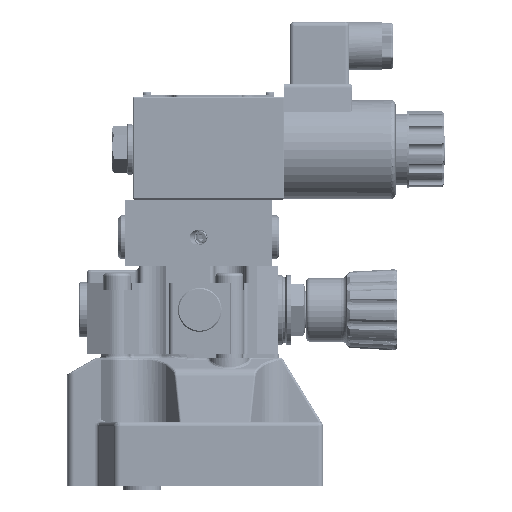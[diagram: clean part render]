
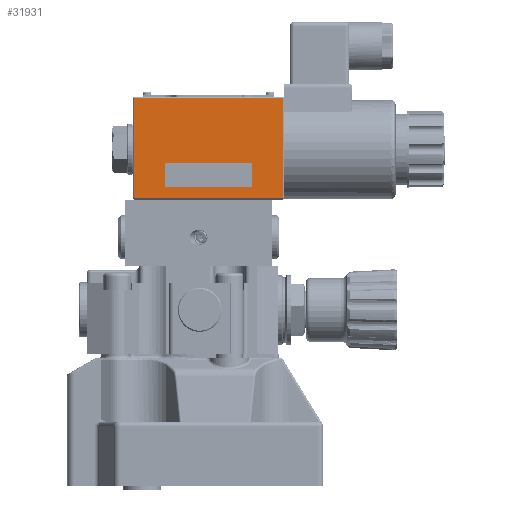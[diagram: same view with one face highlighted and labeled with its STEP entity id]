
A CAD part, front view. The second image highlights one B-rep face of the part: STEP entity #31931.
In plain terms, the highlighted planar face has unit normal (0, -1, 0).
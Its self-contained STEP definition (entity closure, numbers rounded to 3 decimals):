
#1610=LINE('',#228121,#3698);
#1611=LINE('',#228124,#3699);
#1612=LINE('',#228126,#3700);
#1613=LINE('',#228128,#3701);
#1614=LINE('',#228129,#3702);
#1615=LINE('',#228132,#3703);
#1616=LINE('',#228134,#3704);
#1617=LINE('',#228136,#3705);
#3698=VECTOR('',#49496,1.);
#3699=VECTOR('',#49497,1.);
#3700=VECTOR('',#49498,1.);
#3701=VECTOR('',#49499,1.);
#3702=VECTOR('',#49500,1.);
#3703=VECTOR('',#49501,1.);
#3704=VECTOR('',#49502,1.);
#3705=VECTOR('',#49503,1.);
#7347=PLANE('',#41073);
#11766=EDGE_LOOP('',(#19762,#19763,#19764,#19765));
#11767=EDGE_LOOP('',(#19766,#19767,#19768,#19769));
#19762=ORIENTED_EDGE('',*,*,#26257,.T.);
#19763=ORIENTED_EDGE('',*,*,#26258,.T.);
#19764=ORIENTED_EDGE('',*,*,#26259,.T.);
#19765=ORIENTED_EDGE('',*,*,#26260,.T.);
#19766=ORIENTED_EDGE('',*,*,#26261,.F.);
#19767=ORIENTED_EDGE('',*,*,#26262,.F.);
#19768=ORIENTED_EDGE('',*,*,#26263,.F.);
#19769=ORIENTED_EDGE('',*,*,#26264,.F.);
#26257=EDGE_CURVE('',#37220,#37221,#1610,.T.);
#26258=EDGE_CURVE('',#37221,#37222,#1611,.T.);
#26259=EDGE_CURVE('',#37222,#37223,#1612,.T.);
#26260=EDGE_CURVE('',#37223,#37220,#1613,.T.);
#26261=EDGE_CURVE('',#37224,#37225,#1614,.T.);
#26262=EDGE_CURVE('',#37226,#37224,#1615,.T.);
#26263=EDGE_CURVE('',#37227,#37226,#1616,.T.);
#26264=EDGE_CURVE('',#37225,#37227,#1617,.T.);
#31931=ADVANCED_FACE('',(#34141,#34142),#7347,.T.);
#34141=FACE_BOUND('',#11766,.T.);
#34142=FACE_BOUND('',#11767,.T.);
#37220=VERTEX_POINT('',#228122);
#37221=VERTEX_POINT('',#228123);
#37222=VERTEX_POINT('',#228125);
#37223=VERTEX_POINT('',#228127);
#37224=VERTEX_POINT('',#228130);
#37225=VERTEX_POINT('',#228131);
#37226=VERTEX_POINT('',#228133);
#37227=VERTEX_POINT('',#228135);
#41073=AXIS2_PLACEMENT_3D('',#228137,#49504,#49505);
#49496=DIRECTION('',(0.,0.,-1.));
#49497=DIRECTION('',(1.,0.,0.));
#49498=DIRECTION('',(0.,0.,1.));
#49499=DIRECTION('',(-1.,0.,0.));
#49500=DIRECTION('',(-1.,0.,0.));
#49501=DIRECTION('',(0.,0.,1.));
#49502=DIRECTION('',(1.,0.,0.));
#49503=DIRECTION('',(0.,0.,-1.));
#49504=DIRECTION('',(0.,-1.,0.));
#49505=DIRECTION('',(0.,0.,-1.));
#228121=CARTESIAN_POINT('',(-724.56,-79.432,160.));
#228122=CARTESIAN_POINT('',(-724.56,-79.432,206.3));
#228123=CARTESIAN_POINT('',(-724.56,-79.432,160.7));
#228124=CARTESIAN_POINT('',(-690.76,-79.432,160.7));
#228125=CARTESIAN_POINT('',(-656.96,-79.432,160.7));
#228126=CARTESIAN_POINT('',(-656.96,-79.432,160.));
#228127=CARTESIAN_POINT('',(-656.96,-79.432,206.3));
#228128=CARTESIAN_POINT('',(-690.76,-79.432,206.3));
#228129=CARTESIAN_POINT('',(-670.76,-79.432,177.));
#228130=CARTESIAN_POINT('',(-670.76,-79.432,177.));
#228131=CARTESIAN_POINT('',(-710.76,-79.432,177.));
#228132=CARTESIAN_POINT('',(-670.76,-79.432,166.));
#228133=CARTESIAN_POINT('',(-670.76,-79.432,166.));
#228134=CARTESIAN_POINT('',(-710.76,-79.432,166.));
#228135=CARTESIAN_POINT('',(-710.76,-79.432,166.));
#228136=CARTESIAN_POINT('',(-710.76,-79.432,177.));
#228137=CARTESIAN_POINT('',(-690.76,-79.432,160.));
